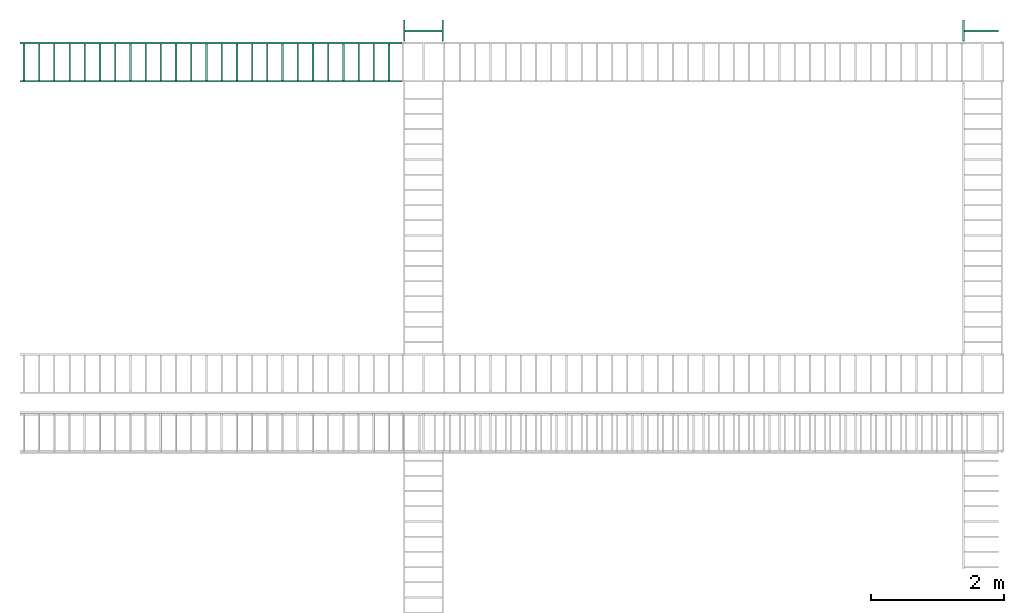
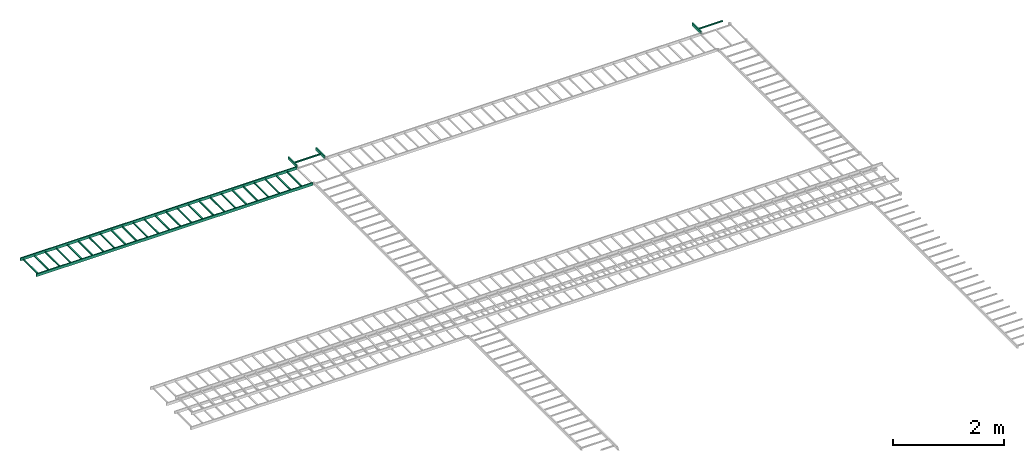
# One storey, part 7 of 7: 3 flow segments.
"""IFC2X3 building model written with IfcOpenShell, lengths in millimetres."""

from ifc_helpers import new_model, entity, si_unit, converted_unit, derived_unit, direction, frame, place, context, subcontext, project, spatial, faceted_brep, type_object, element, save


model = new_model("IFC2X3")

# Units and contexts
model_context = context("Model", 3, precision=0.01, world=frame((0.0, 4.29681676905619e-09, 0.0)), true_north=direction((4.01073788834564e-13, 1.0)))
plan_context = context("Plan", 3, precision=0.01, world=frame((0.0, 4.29681676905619e-09, 0.0)), true_north=direction((4.01073788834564e-13, 1.0)))
body_context = subcontext(model_context, "Body", "Model", "MODEL_VIEW")
ifc_project = project(units=[converted_unit("PLANEANGLEUNIT", "DEGREE", entity("IfcPositiveLengthMeasure", 0.0174532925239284), si_unit("PLANEANGLEUNIT", "RADIAN"), dimensions=[0, 0, 0, 0, 0, 0, 0]), si_unit("AREAUNIT", "SQUARE_METRE"), si_unit("LENGTHUNIT", "METRE", prefix="MILLI"), si_unit("MASSUNIT", "GRAM", prefix="KILO"), si_unit("POWERUNIT", "WATT"), si_unit("PRESSUREUNIT", "PASCAL", prefix="KILO"), si_unit("FORCEUNIT", "NEWTON", prefix="KILO"), si_unit("ELECTRICVOLTAGEUNIT", "VOLT"), si_unit("ELECTRICCURRENTUNIT", "AMPERE"), si_unit("THERMODYNAMICTEMPERATUREUNIT", "DEGREE_CELSIUS"), si_unit("TIMEUNIT", "SECOND"), si_unit("VOLUMEUNIT", "CUBIC_METRE"), derived_unit("LINEARVELOCITYUNIT", [(si_unit("LENGTHUNIT", "METRE"), 1), (si_unit("TIMEUNIT", "SECOND"), -1)]), derived_unit("VOLUMETRICFLOWRATEUNIT", [(si_unit("VOLUMEUNIT", "CUBIC_METRE"), 1), (si_unit("TIMEUNIT", "SECOND"), -1)]), derived_unit("THERMALTRANSMITTANCEUNIT", [(si_unit("POWERUNIT", "WATT"), 1), (si_unit("THERMODYNAMICTEMPERATUREUNIT", "KELVIN"), -1), (si_unit("AREAUNIT", "SQUARE_METRE"), -1)]), derived_unit("SOUNDPRESSUREUNIT", [(si_unit("PRESSUREUNIT", "PASCAL"), 1)])], contexts=[model_context, plan_context])

# Site, building, storey
site_placement = place(None, frame((0.0, -4.29681676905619e-09, 0.0), z_axis=(0.0, 0.0, 1.0), x_axis=(1.0, 0.0, 0.0)))
site = spatial("IfcSite", under=ifc_project, at=site_placement, Name="ENGM", CompositionType="ELEMENT")
building_placement = place(site_placement, frame((0.0, 4.29681676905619e-09, 0.0), z_axis=(0.0, 0.0, 1.0), x_axis=(1.0, 0.0, 0.0)))
building = spatial("IfcBuilding", under=site, at=building_placement, Name="TS", CompositionType="ELEMENT")
storey_placement = place(building_placement, frame((0.0, 0.0, 207370.0), z_axis=(0.0, 0.0, 1.0), x_axis=(1.0, 0.0, 0.0)))
storey = spatial("IfcBuildingStorey", under=building, at=storey_placement, Name="Nivå E", CompositionType="ELEMENT", Elevation=207370.0)

# Flow segments
cable_carrier_segment_type = type_object("IfcCableCarrierSegmentType", Name="Kabelbro", PredefinedType="CABLELADDERSEGMENT")
flow_segment_1_placement = place(storey_placement, frame((711525.70397, 445578.66952, 2635.0), z_axis=(0.0, 0.0, 1.0), x_axis=(1.0, 0.0, 0.0)))
element("IfcFlowSegment", 1, at=flow_segment_1_placement, inside=storey, type_object=cable_carrier_segment_type, Name="Kabelbro", context=body_context, shape_type="Brep", body=[
    faceted_brep([(2984.5001, 274.60001, -4.6), (2984.5001, -274.60001, -30.0), (2984.5001, -274.60001, -4.6), (2984.5001, 274.60001, -30.0), (2959.0999, 274.60001, -30.0), (2959.0999, -274.60001, -4.6), (2959.0999, -274.60001, -30.0), (2959.0999, 274.60001, -4.6), (3213.1001, 274.60001, -4.6), (3213.1001, -274.60001, -30.0), (3213.1001, -274.60001, -4.6), (3213.1001, 274.60001, -30.0), (3187.6999, 274.60001, -30.0), (3187.6999, -274.60001, -4.6), (3187.6999, -274.60001, -30.0), (3187.6999, 274.60001, -4.6), (3441.7001, 274.60001, -4.6), (3441.7001, -274.60001, -30.0), (3441.7001, -274.60001, -4.6), (3441.7001, 274.60001, -30.0), (3416.2999, 274.60001, -30.0), (3416.2999, -274.60001, -4.6), (3416.2999, -274.60001, -30.0), (3416.2999, 274.60001, -4.6), (3670.3001, 274.60001, -4.6), (3670.3001, -274.60001, -30.0), (3670.3001, -274.60001, -4.6), (3670.3001, 274.60001, -30.0), (3644.8999, 274.60001, -30.0), (3644.8999, -274.60001, -4.6), (3644.8999, -274.60001, -30.0), (3644.8999, 274.60001, -4.6), (3898.9001, 274.60001, -4.6), (3898.9001, -274.60001, -30.0), (3898.9001, -274.60001, -4.6), (3898.9001, 274.60001, -30.0), (3873.4999, 274.60001, -30.0), (3873.4999, -274.60001, -4.6), (3873.4999, -274.60001, -30.0), (3873.4999, 274.60001, -4.6), (4127.5001, 274.60001, -4.6), (4127.5001, -274.60001, -30.0), (4127.5001, -274.60001, -4.6), (4127.5001, 274.60001, -30.0), (4102.0999, 274.60001, -30.0), (4102.0999, -274.60001, -4.6), (4102.0999, -274.60001, -30.0), (4102.0999, 274.60001, -4.6), (4356.1001, 274.60001, -4.6), (4356.1001, -274.60001, -30.0), (4356.1001, -274.60001, -4.6), (4356.1001, 274.60001, -30.0), (4330.6999, 274.60001, -30.0), (4330.6999, -274.60001, -4.6), (4330.6999, -274.60001, -30.0), (4330.6999, 274.60001, -4.6), (4584.7001, 274.60001, -4.6), (4584.7001, -274.60001, -30.0), (4584.7001, -274.60001, -4.6), (4584.7001, 274.60001, -30.0), (4559.2999, 274.60001, -30.0), (4559.2999, -274.60001, -4.6), (4559.2999, -274.60001, -30.0), (4559.2999, 274.60001, -4.6), (4813.3001, 274.60001, -4.6), (4813.3001, -274.60001, -30.0), (4813.3001, -274.60001, -4.6), (4813.3001, 274.60001, -30.0), (4787.8999, 274.60001, -30.0), (4787.8999, -274.60001, -4.6), (4787.8999, -274.60001, -30.0), (4787.8999, 274.60001, -4.6), (5041.89981, 274.60001, -4.6), (5041.89981, -274.60001, -30.0), (5041.89981, -274.60001, -4.6), (5041.89981, 274.60001, -30.0), (5016.50019, 274.60001, -30.0), (5016.50019, -274.60001, -4.6), (5016.50019, -274.60001, -30.0), (5016.50019, 274.60001, -4.6), (5270.49981, 274.60001, -4.6), (5270.49981, -274.60001, -30.0), (5270.49981, -274.60001, -4.6), (5270.49981, 274.60001, -30.0), (5245.10019, 274.60001, -30.0), (5245.10019, -274.60001, -4.6), (5245.10019, -274.60001, -30.0), (5245.10019, 274.60001, -4.6), (5499.09981, 274.60001, -4.6), (5499.09981, -274.60001, -30.0), (5499.09981, -274.60001, -4.6), (5499.09981, 274.60001, -30.0), (5473.70019, 274.60001, -30.0), (5473.70019, -274.60001, -4.6), (5473.70019, -274.60001, -30.0), (5473.70019, 274.60001, -4.6), (5727.69981, 274.60001, -4.6), (5727.69981, -274.60001, -30.0), (5727.69981, -274.60001, -4.6), (5727.69981, 274.60001, -30.0), (5702.30019, 274.60001, -30.0), (5702.30019, -274.60001, -4.6), (5702.30019, -274.60001, -30.0), (5702.30019, 274.60001, -4.6), (5956.29981, 274.60001, -4.6), (5956.29981, -274.60001, -30.0), (5956.29981, -274.60001, -4.6), (5956.29981, 274.60001, -30.0), (5930.90019, 274.60001, -30.0), (5930.90019, -274.60001, -4.6), (5930.90019, -274.60001, -30.0), (5930.90019, 274.60001, -4.6), (6184.89981, 274.60001, -4.6), (6184.89981, -274.60001, -30.0), (6184.89981, -274.60001, -4.6), (6184.89981, 274.60001, -30.0), (6159.50019, 274.60001, -30.0), (6159.50019, -274.60001, -4.6), (6159.50019, -274.60001, -30.0), (6159.50019, 274.60001, -4.6), (6413.49981, 274.60001, -4.6), (6413.49981, -274.60001, -30.0), (6413.49981, -274.60001, -4.6), (6413.49981, 274.60001, -30.0), (6388.10019, 274.60001, -30.0), (6388.10019, -274.60001, -4.6), (6388.10019, -274.60001, -30.0), (6388.10019, 274.60001, -4.6), (6642.09981, 274.60001, -4.6), (6642.09981, -274.60001, -30.0), (6642.09981, -274.60001, -4.6), (6642.09981, 274.60001, -30.0), (6616.70019, 274.60001, -30.0), (6616.70019, -274.60001, -4.6), (6616.70019, -274.60001, -30.0), (6616.70019, 274.60001, -4.6), (6870.69981, 274.60001, -4.6), (6870.69981, -274.60001, -30.0), (6870.69981, -274.60001, -4.6), (6870.69981, 274.60001, -30.0), (6845.30019, 274.60001, -30.0), (6845.30019, -274.60001, -4.6), (6845.30019, -274.60001, -30.0), (6845.30019, 274.60001, -4.6), (7099.29981, 274.60001, -4.6), (7099.29981, -274.60001, -30.0), (7099.29981, -274.60001, -4.6), (7099.29981, 274.60001, -30.0), (7073.90019, 274.60001, -30.0), (7073.90019, -274.60001, -4.6), (7073.90019, -274.60001, -30.0), (7073.90019, 274.60001, -4.6), (7327.89981, 274.60001, -4.6), (7327.89981, -274.60001, -30.0), (7327.89981, -274.60001, -4.6), (7327.89981, 274.60001, -30.0), (7302.50019, 274.60001, -30.0), (7302.50019, -274.60001, -4.6), (7302.50019, -274.60001, -30.0), (7302.50019, 274.60001, -4.6), (7556.49981, 274.60001, -4.6), (7556.49981, -274.60001, -30.0), (7556.49981, -274.60001, -4.6), (7556.49981, 274.60001, -30.0), (7531.10019, 274.60001, -30.0), (7531.10019, -274.60001, -4.6), (7531.10019, -274.60001, -30.0), (7531.10019, 274.60001, -4.6), (7785.09981, 274.60001, -4.6), (7785.09981, -274.60001, -30.0), (7785.09981, -274.60001, -4.6), (7785.09981, 274.60001, -30.0), (7759.70019, 274.60001, -30.0), (7759.70019, -274.60001, -4.6), (7759.70019, -274.60001, -30.0), (7759.70019, 274.60001, -4.6), (8013.69981, 274.60001, -4.6), (8013.69981, -274.60001, -30.0), (8013.69981, -274.60001, -4.6), (8013.69981, 274.60001, -30.0), (7988.30019, 274.60001, -30.0), (7988.30019, -274.60001, -4.6), (7988.30019, -274.60001, -30.0), (7988.30019, 274.60001, -4.6), (8242.29981, 274.60001, -4.6), (8242.29981, -274.60001, -30.0), (8242.29981, -274.60001, -4.6), (8242.29981, 274.60001, -30.0), (8216.90019, 274.60001, -30.0), (8216.90019, -274.60001, -4.6), (8216.90019, -274.60001, -30.0), (8216.90019, 274.60001, -4.6), (8470.89981, 274.60001, -4.6), (8470.89981, -274.60001, -30.0), (8470.89981, -274.60001, -4.6), (8470.89981, 274.60001, -30.0), (8445.50019, 274.60001, -30.0), (8445.50019, -274.60001, -4.6), (8445.50019, -274.60001, -30.0), (8445.50019, 274.60001, -4.6), (8655.66237, -274.60001, -30.0), (8655.66237, -300.0, -30.0), (8655.66237, -300.0, 30.0), (8655.66237, -274.60001, 30.0), (8655.66237, 300.0, -30.0), (8655.66237, 274.60001, -30.0), (8655.66237, 274.60001, 30.0), (8655.66237, 300.0, 30.0), (2912.28352999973, -300.0, -9.81240437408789), (2912.28352999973, -300.0, 30.0), (2912.28352999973, -300.0, -30.0), (2912.28352999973, -291.453921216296, 30.0), (2912.28352999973, -274.60001, 30.0), (2912.28352999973, -274.60001, 9.81240437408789), (2912.28352999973, -274.60001, -30.0), (2912.28352999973, -283.146088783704, -30.0), (2912.28352999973, 300.0, 9.81240437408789), (2912.28352999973, 300.0, -30.0), (2912.28352999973, 300.0, 30.0), (2912.28352999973, 291.453921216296, -30.0), (2912.28352999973, 274.60001, -30.0), (2912.28352999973, 274.60001, -9.81240437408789), (2912.28352999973, 274.60001, 30.0), (2912.28352999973, 283.146088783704, 30.0)], [[[0, 1, 2]], [[1, 0, 3]], [[4, 5, 6]], [[5, 4, 7]], [[8, 9, 10]], [[9, 8, 11]], [[12, 13, 14]], [[13, 12, 15]], [[16, 17, 18]], [[17, 16, 19]], [[20, 21, 22]], [[21, 20, 23]], [[24, 25, 26]], [[25, 24, 27]], [[28, 29, 30]], [[29, 28, 31]], [[32, 33, 34]], [[33, 32, 35]], [[36, 37, 38]], [[37, 36, 39]], [[40, 41, 42]], [[41, 40, 43]], [[44, 45, 46]], [[45, 44, 47]], [[48, 49, 50]], [[49, 48, 51]], [[52, 53, 54]], [[53, 52, 55]], [[56, 57, 58]], [[57, 56, 59]], [[60, 61, 62]], [[61, 60, 63]], [[64, 65, 66]], [[65, 64, 67]], [[68, 69, 70]], [[69, 68, 71]], [[72, 73, 74]], [[73, 72, 75]], [[76, 77, 78]], [[77, 76, 79]], [[80, 81, 82]], [[81, 80, 83]], [[84, 85, 86]], [[85, 84, 87]], [[88, 89, 90]], [[89, 88, 91]], [[92, 93, 94]], [[93, 92, 95]], [[96, 97, 98]], [[97, 96, 99]], [[100, 101, 102]], [[101, 100, 103]], [[104, 105, 106]], [[105, 104, 107]], [[108, 109, 110]], [[109, 108, 111]], [[112, 113, 114]], [[113, 112, 115]], [[116, 117, 118]], [[117, 116, 119]], [[120, 121, 122]], [[121, 120, 123]], [[124, 125, 126]], [[125, 124, 127]], [[128, 129, 130]], [[129, 128, 131]], [[132, 133, 134]], [[133, 132, 135]], [[136, 137, 138]], [[137, 136, 139]], [[140, 141, 142]], [[141, 140, 143]], [[144, 145, 146]], [[145, 144, 147]], [[148, 149, 150]], [[149, 148, 151]], [[152, 153, 154]], [[153, 152, 155]], [[156, 157, 158]], [[157, 156, 159]], [[160, 161, 162]], [[161, 160, 163]], [[164, 165, 166]], [[165, 164, 167]], [[168, 169, 170]], [[169, 168, 171]], [[172, 173, 174]], [[173, 172, 175]], [[176, 177, 178]], [[177, 176, 179]], [[180, 181, 182]], [[181, 180, 183]], [[184, 185, 186]], [[185, 184, 187]], [[188, 189, 190]], [[189, 188, 191]], [[192, 193, 194]], [[193, 192, 195]], [[196, 197, 198]], [[197, 196, 199]], [[5, 2, 1]], [[1, 6, 5]], [[3, 0, 7]], [[7, 4, 3]], [[13, 10, 9]], [[9, 14, 13]], [[11, 8, 15]], [[15, 12, 11]], [[21, 18, 17]], [[17, 22, 21]], [[19, 16, 23]], [[23, 20, 19]], [[29, 26, 25]], [[25, 30, 29]], [[27, 24, 31]], [[31, 28, 27]], [[37, 34, 33]], [[33, 38, 37]], [[35, 32, 39]], [[39, 36, 35]], [[45, 42, 41]], [[41, 46, 45]], [[43, 40, 47]], [[47, 44, 43]], [[53, 50, 49]], [[49, 54, 53]], [[51, 48, 55]], [[55, 52, 51]], [[61, 58, 57]], [[57, 62, 61]], [[59, 56, 63]], [[63, 60, 59]], [[69, 66, 65]], [[65, 70, 69]], [[67, 64, 71]], [[71, 68, 67]], [[77, 74, 73]], [[73, 78, 77]], [[75, 72, 79]], [[79, 76, 75]], [[85, 82, 81]], [[81, 86, 85]], [[83, 80, 87]], [[87, 84, 83]], [[93, 90, 89]], [[89, 94, 93]], [[91, 88, 95]], [[95, 92, 91]], [[101, 98, 97]], [[97, 102, 101]], [[99, 96, 103]], [[103, 100, 99]], [[109, 106, 105]], [[105, 110, 109]], [[107, 104, 111]], [[111, 108, 107]], [[117, 114, 113]], [[113, 118, 117]], [[115, 112, 119]], [[119, 116, 115]], [[125, 122, 121]], [[121, 126, 125]], [[123, 120, 127]], [[127, 124, 123]], [[133, 130, 129]], [[129, 134, 133]], [[131, 128, 135]], [[135, 132, 131]], [[141, 138, 137]], [[137, 142, 141]], [[139, 136, 143]], [[143, 140, 139]], [[149, 146, 145]], [[145, 150, 149]], [[147, 144, 151]], [[151, 148, 147]], [[157, 154, 153]], [[153, 158, 157]], [[155, 152, 159]], [[159, 156, 155]], [[165, 162, 161]], [[161, 166, 165]], [[163, 160, 167]], [[167, 164, 163]], [[173, 170, 169]], [[169, 174, 173]], [[171, 168, 175]], [[175, 172, 171]], [[181, 178, 177]], [[177, 182, 181]], [[179, 176, 183]], [[183, 180, 179]], [[189, 186, 185]], [[185, 190, 189]], [[187, 184, 191]], [[191, 188, 187]], [[197, 194, 193]], [[193, 198, 197]], [[195, 192, 199]], [[199, 196, 195]], [[0, 2, 5]], [[5, 7, 0]], [[4, 6, 1]], [[1, 3, 4]], [[8, 10, 13]], [[13, 15, 8]], [[12, 14, 9]], [[9, 11, 12]], [[16, 18, 21]], [[21, 23, 16]], [[20, 22, 17]], [[17, 19, 20]], [[24, 26, 29]], [[29, 31, 24]], [[28, 30, 25]], [[25, 27, 28]], [[32, 34, 37]], [[37, 39, 32]], [[36, 38, 33]], [[33, 35, 36]], [[40, 42, 45]], [[45, 47, 40]], [[44, 46, 41]], [[41, 43, 44]], [[48, 50, 53]], [[53, 55, 48]], [[52, 54, 49]], [[49, 51, 52]], [[56, 58, 61]], [[61, 63, 56]], [[60, 62, 57]], [[57, 59, 60]], [[64, 66, 69]], [[69, 71, 64]], [[68, 70, 65]], [[65, 67, 68]], [[72, 74, 77]], [[77, 79, 72]], [[76, 78, 73]], [[73, 75, 76]], [[80, 82, 85]], [[85, 87, 80]], [[84, 86, 81]], [[81, 83, 84]], [[88, 90, 93]], [[93, 95, 88]], [[92, 94, 89]], [[89, 91, 92]], [[96, 98, 101]], [[101, 103, 96]], [[100, 102, 97]], [[97, 99, 100]], [[104, 106, 109]], [[109, 111, 104]], [[108, 110, 105]], [[105, 107, 108]], [[112, 114, 117]], [[117, 119, 112]], [[116, 118, 113]], [[113, 115, 116]], [[120, 122, 125]], [[125, 127, 120]], [[124, 126, 121]], [[121, 123, 124]], [[128, 130, 133]], [[133, 135, 128]], [[132, 134, 129]], [[129, 131, 132]], [[136, 138, 141]], [[141, 143, 136]], [[140, 142, 137]], [[137, 139, 140]], [[144, 146, 149]], [[149, 151, 144]], [[148, 150, 145]], [[145, 147, 148]], [[152, 154, 157]], [[157, 159, 152]], [[156, 158, 153]], [[153, 155, 156]], [[160, 162, 165]], [[165, 167, 160]], [[164, 166, 161]], [[161, 163, 164]], [[168, 170, 173]], [[173, 175, 168]], [[172, 174, 169]], [[169, 171, 172]], [[176, 178, 181]], [[181, 183, 176]], [[180, 182, 177]], [[177, 179, 180]], [[184, 186, 189]], [[189, 191, 184]], [[188, 190, 185]], [[185, 187, 188]], [[192, 194, 197]], [[197, 199, 192]], [[196, 198, 193]], [[193, 195, 196]], [[200, 201, 202]], [[202, 203, 200]], [[204, 205, 206]], [[206, 207, 204]], [[208, 209, 202]], [[210, 208, 202, 201]], [[211, 212, 203]], [[209, 211, 203, 202]], [[213, 214, 200]], [[212, 213, 200, 203]], [[215, 210, 201]], [[214, 215, 201, 200]], [[216, 217, 204]], [[218, 216, 204, 207]], [[219, 220, 205]], [[217, 219, 205, 204]], [[221, 222, 206]], [[220, 221, 206, 205]], [[223, 218, 207]], [[222, 223, 207, 206]], [[210, 215, 214, 213, 212, 211, 209, 208]], [[218, 223, 222, 221, 220, 219, 217, 216]]], orient=[[False], [False], [False], [False], [False], [False], [False], [False], [False], [False], [False], [False], [False], [False], [False], [False], [False], [False], [False], [False], [False], [False], [False], [False], [False], [False], [False], [False], [False], [False], [False], [False], [False], [False], [False], [False], [False], [False], [False], [False], [False], [False], [False], [False], [False], [False], [False], [False], [False], [False], [False], [False], [False], [False], [False], [False], [False], [False], [False], [False], [False], [False], [False], [False], [False], [False], [False], [False], [False], [False], [False], [False], [False], [False], [False], [False], [False], [False], [False], [False], [False], [False], [False], [False], [False], [False], [False], [False], [False], [False], [False], [False], [False], [False], [False], [False], [False], [False], [False], [False], [False], [False], [False], [False], [False], [False], [False], [False], [False], [False], [False], [False], [False], [False], [False], [False], [False], [False], [False], [False], [False], [False], [False], [False], [False], [False], [False], [False], [False], [False], [False], [False], [False], [False], [False], [False], [False], [False], [False], [False], [False], [False], [False], [False], [False], [False], [False], [False], [False], [False], [False], [False], [False], [False], [False], [False], [False], [False], [False], [False], [False], [False], [False], [False], [False], [False], [False], [False], [False], [False], [False], [False], [False], [False], [False], [False], [False], [False], [False], [False], [False], [False], [False], [False], [False], [False], [False], [False], [False], [False], [False], [False], [False], [False], [False], [False], [False], [False], [False], [False], [False], [False], [False], [False], [False], [False], [False], [False], [False], [False], [False], [False], [False], [False], [False], [False], [False], [False], [False], [False], [False], [False], [False], [False], [False], [False], [False], [False], [False], [False], [False], [False], [False], [False], [False], [False], [False], [False], [False], [False], [False], [False], [False], [False], [False], [False], [False], [False], [False], [False], [False], [False], [False], [False], [False], [False], [False], [False], [False], [False], [False], [False], [False], [False], [False], [False], [False], [False], [False], [False], [False], [False], [False], [False], [False], [False], [False], [False], [False], [False], [False], [False], [False], [False], [False], [False], [False], [False], [False], [False], [False], [False], [False], [False], [False], [False], [False], [False], [False], [False], [False], [False], [False], [False], [False], [False], [False], [False], [False], [False], [False], [False], [False], [False], [False], [False], [False], [False], [False], [False], [False], [False]]),
])
flow_segment_2_placement = place(storey_placement, frame((720501.36631, 453362.11046, 2635.0), z_axis=(0.0, 0.0, 1.0), x_axis=(0.0, -1.0, 0.0)))
element("IfcFlowSegment", 2, at=flow_segment_2_placement, inside=storey, type_object=cable_carrier_segment_type, Name="Kabelbro", context=body_context, shape_type="Brep", body=[
    faceted_brep([(7327.89981, -274.60001, -4.6), (7327.89981, -274.60001, -30.0), (7302.50019, -274.60001, -30.0), (7302.50019, -274.60001, -4.6), (7302.50019, 274.60001, -30.0), (7327.89981, 274.60001, -30.0), (7327.89981, 274.60001, -4.6), (7302.50019, 274.60001, -4.6), (7463.44095, -300.0, -30.0), (7463.44095, -300.0, 30.0), (7463.44095, -274.60001, 30.0), (7463.44095, -274.60001, -30.0), (7463.44095, 274.60001, -30.0), (7463.44095, 274.60001, 30.0), (7463.44095, 300.0, 30.0), (7463.44095, 300.0, -30.0), (7150.68599616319, -300.0, -30.0), (7150.68599616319, -300.0, -27.4857043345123), (7150.68599616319, -300.0, 30.0), (7150.68599616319, -275.664394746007, 30.0), (7150.68599616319, -274.60001, 30.0), (7150.68599616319, -274.60001, 27.4857043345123), (7150.68599616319, -274.60001, -30.0), (7150.68599616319, -298.935615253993, -30.0), (7150.68599616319, 300.0, 30.0), (7150.68599616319, 300.0, 27.4857043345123), (7150.68599616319, 300.0, -30.0), (7150.68599616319, 275.664394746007, -30.0), (7150.68599616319, 274.60001, -30.0), (7150.68599616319, 274.60001, -27.4857043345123), (7150.68599616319, 274.60001, 30.0), (7150.68599616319, 298.935615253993, 30.0)], [[[0, 1, 2]], [[2, 3, 0]], [[4, 5, 6]], [[6, 7, 4]], [[6, 1, 0]], [[1, 6, 5]], [[7, 0, 3]], [[0, 7, 6]], [[4, 3, 2]], [[3, 4, 7]], [[5, 2, 1]], [[2, 5, 4]], [[8, 9, 10]], [[10, 11, 8]], [[12, 13, 14]], [[14, 15, 12]], [[16, 17, 8]], [[17, 18, 9, 8]], [[19, 20, 10]], [[18, 19, 10, 9]], [[20, 21, 10]], [[21, 22, 11, 10]], [[23, 16, 8]], [[22, 23, 8, 11]], [[24, 25, 14]], [[25, 26, 15, 14]], [[27, 28, 12]], [[26, 27, 12, 15]], [[28, 29, 12]], [[29, 30, 13, 12]], [[31, 24, 14]], [[30, 31, 14, 13]], [[23, 22, 21, 20, 19, 18, 17, 16]], [[31, 30, 29, 28, 27, 26, 25, 24]]], orient=[[False], [False], [False], [False], [False], [False], [False], [False], [False], [False], [False], [False], [False], [False], [False], [False], [False], [False], [False], [False], [False], [False], [False], [False], [False], [False], [False], [False], [False], [False], [False], [False], [False], [False]]),
])
flow_segment_3_placement = place(storey_placement, frame((728901.36631, 453362.11046, 2635.0), z_axis=(0.0, 0.0, 1.0), x_axis=(0.0, -1.0, 0.0)))
element("IfcFlowSegment", 3, at=flow_segment_3_placement, inside=storey, type_object=cable_carrier_segment_type, Name="Kabelbro", context=body_context, shape_type="Brep", body=[
    faceted_brep([(7327.89981, -274.60001, -4.6), (7327.89981, -274.60001, -30.0), (7302.50019, -274.60001, -30.0), (7302.50019, -274.60001, -4.6), (7327.89981, 241.223476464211, -4.6), (7327.89981, 241.223476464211, -6.14363423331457), (7327.89981, 241.223476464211, -30.0), (7302.50019, 241.223476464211, -4.6), (7304.04380113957, 241.223476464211, -4.6), (7302.50019, 241.223476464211, -30.0), (7302.50019, 241.223476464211, -28.4563657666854), (7326.35619886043, 241.223476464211, -30.0), (7463.44095, -300.0, -30.0), (7463.44095, -300.0, 30.0), (7463.44095, -274.60001, 30.0), (7463.44095, -274.60001, -30.0), (7150.68599616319, -300.0, -30.0), (7150.68599616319, -300.0, -27.4857043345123), (7150.68599616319, -300.0, 30.0), (7150.68599616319, -275.664394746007, 30.0), (7150.68599616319, -274.60001, 30.0), (7150.68599616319, -274.60001, 27.4857043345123), (7150.68599616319, -274.60001, -30.0), (7150.68599616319, -298.935615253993, -30.0)], [[[0, 1, 2]], [[2, 3, 0]], [[4, 5, 1, 0]], [[5, 6, 1]], [[7, 8, 0, 3]], [[8, 4, 0]], [[9, 10, 3, 2]], [[10, 7, 3]], [[6, 11, 2, 1]], [[11, 9, 2]], [[12, 13, 14]], [[14, 15, 12]], [[16, 17, 12]], [[17, 18, 13, 12]], [[19, 20, 14]], [[18, 19, 14, 13]], [[20, 21, 14]], [[21, 22, 15, 14]], [[23, 16, 12]], [[22, 23, 12, 15]], [[8, 7, 10, 9, 11, 6, 5, 4]], [[23, 22, 21, 20, 19, 18, 17, 16]]], orient=[[False], [False], [False], [False], [False], [False], [False], [False], [False], [False], [False], [False], [False], [False], [False], [False], [False], [False], [False], [False], [False], [False]]),
])

save(model, "model.ifc")
